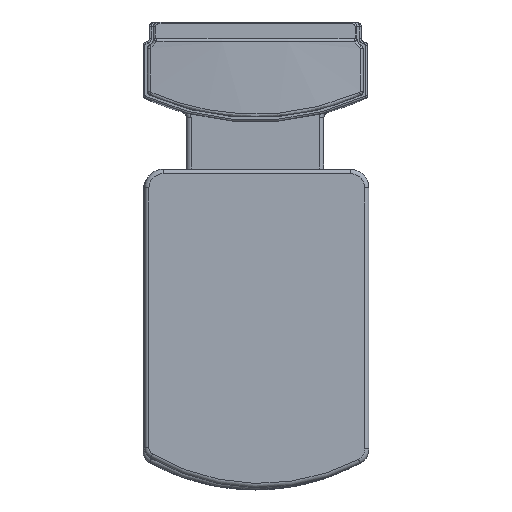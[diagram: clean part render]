
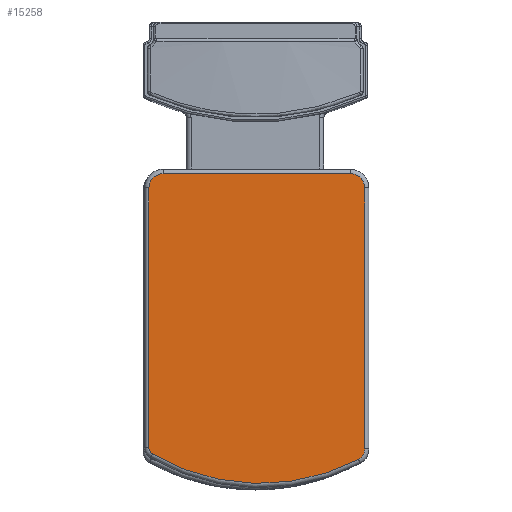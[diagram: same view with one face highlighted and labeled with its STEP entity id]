
A CAD part, top view. The second image highlights one B-rep face of the part: STEP entity #15258.
In plain terms, the highlighted planar face has unit normal (0, 0, 1) as drawn and (0, 0, -1) by its records, which use the part's own axes.
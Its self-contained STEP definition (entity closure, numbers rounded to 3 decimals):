
#14945=CARTESIAN_POINT('',(-438.042,345.427,0.0));
#14946=VERTEX_POINT('',#14945);
#14964=CARTESIAN_POINT('',(-429.075,15.129,0.0));
#14965=VERTEX_POINT('',#14964);
#14966=CARTESIAN_POINT('',(-136.505,188.342,0.0));
#14967=DIRECTION('',(0.0,0.0,1.0));
#14968=DIRECTION('',(-1.,-0.027,0.0));
#14969=AXIS2_PLACEMENT_3D('',#14966,#14967,#14968);
#14970=CIRCLE('',#14969,340.);
#14971=EDGE_CURVE('',#14946,#14965,#14970,.T.);
#14998=CARTESIAN_POINT('',(-420.977,355.407,0.0));
#14999=VERTEX_POINT('',#14998);
#15008=CARTESIAN_POINT('',(-2.503,355.407,0.0));
#15009=VERTEX_POINT('',#15008);
#15017=CARTESIAN_POINT('',(-2.503,355.407,0.0));
#15018=DIRECTION('',(-1.0,0.0,0.0));
#15019=VECTOR('',#15018,418.473);
#15020=LINE('',#15017,#15019);
#15021=EDGE_CURVE('',#15009,#14999,#15020,.T.);
#15033=CARTESIAN_POINT('',(-420.977,335.827,0.0));
#15034=DIRECTION('',(0.0,0.0,1.));
#15035=DIRECTION('',(-0.507,0.862,0.0));
#15036=AXIS2_PLACEMENT_3D('',#15033,#15034,#15035);
#15037=CIRCLE('',#15036,19.58);
#15038=EDGE_CURVE('',#14999,#14946,#15037,.T.);
#15051=CARTESIAN_POINT('',(20.497,332.407,0.0));
#15052=VERTEX_POINT('',#15051);
#15060=CARTESIAN_POINT('',(-2.503,332.407,0.0));
#15061=DIRECTION('',(0.0,0.0,1.0));
#15062=DIRECTION('',(0.707,0.707,0.0));
#15063=AXIS2_PLACEMENT_3D('',#15060,#15061,#15062);
#15064=CIRCLE('',#15063,23.);
#15065=EDGE_CURVE('',#15052,#15009,#15064,.T.);
#15085=CARTESIAN_POINT('',(20.497,32.407,0.0));
#15086=VERTEX_POINT('',#15085);
#15094=CARTESIAN_POINT('',(20.497,32.407,0.0));
#15095=DIRECTION('',(0.0,1.0,0.0));
#15096=VECTOR('',#15095,300.0);
#15097=LINE('',#15094,#15096);
#15098=EDGE_CURVE('',#15086,#15052,#15097,.T.);
#15115=CARTESIAN_POINT('',(-419.425,9.407,0.0));
#15116=VERTEX_POINT('',#15115);
#15126=CARTESIAN_POINT('',(-419.425,20.407,0.0));
#15127=DIRECTION('',(0.0,0.0,1.));
#15128=DIRECTION('',(-0.507,-0.862,0.0));
#15129=AXIS2_PLACEMENT_3D('',#15126,#15127,#15128);
#15130=CIRCLE('',#15129,11.);
#15131=EDGE_CURVE('',#14965,#15116,#15130,.T.);
#15143=CARTESIAN_POINT('',(-2.503,9.407,0.0));
#15144=VERTEX_POINT('',#15143);
#15152=CARTESIAN_POINT('',(-2.503,32.407,0.0));
#15153=DIRECTION('',(0.0,0.0,1.));
#15154=DIRECTION('',(0.707,-0.707,0.0));
#15155=AXIS2_PLACEMENT_3D('',#15152,#15153,#15154);
#15156=CIRCLE('',#15155,23.0);
#15157=EDGE_CURVE('',#15144,#15086,#15156,.T.);
#15176=CARTESIAN_POINT('',(-419.425,9.407,0.0));
#15177=DIRECTION('',(1.0,0.0,0.0));
#15178=VECTOR('',#15177,416.921);
#15179=LINE('',#15176,#15178);
#15180=EDGE_CURVE('',#15116,#15144,#15179,.T.);
#15243=CARTESIAN_POINT('',(-215.603,182.912,0.0));
#15244=DIRECTION('',(0.0,0.0,1.0));
#15245=DIRECTION('',(1.0,0.0,0.0));
#15246=AXIS2_PLACEMENT_3D('',#15243,#15244,#15245);
#15247=PLANE('',#15246);
#15248=ORIENTED_EDGE('',*,*,#15021,.F.);
#15249=ORIENTED_EDGE('',*,*,#15065,.F.);
#15250=ORIENTED_EDGE('',*,*,#15098,.F.);
#15251=ORIENTED_EDGE('',*,*,#15157,.F.);
#15252=ORIENTED_EDGE('',*,*,#15180,.F.);
#15253=ORIENTED_EDGE('',*,*,#15131,.F.);
#15254=ORIENTED_EDGE('',*,*,#14971,.F.);
#15255=ORIENTED_EDGE('',*,*,#15038,.F.);
#15256=EDGE_LOOP('',(#15248,#15249,#15250,#15251,#15252,#15253,#15254,#15255));
#15257=FACE_OUTER_BOUND('',#15256,.T.);
#15258=ADVANCED_FACE('',(#15257),#15247,.F.);
